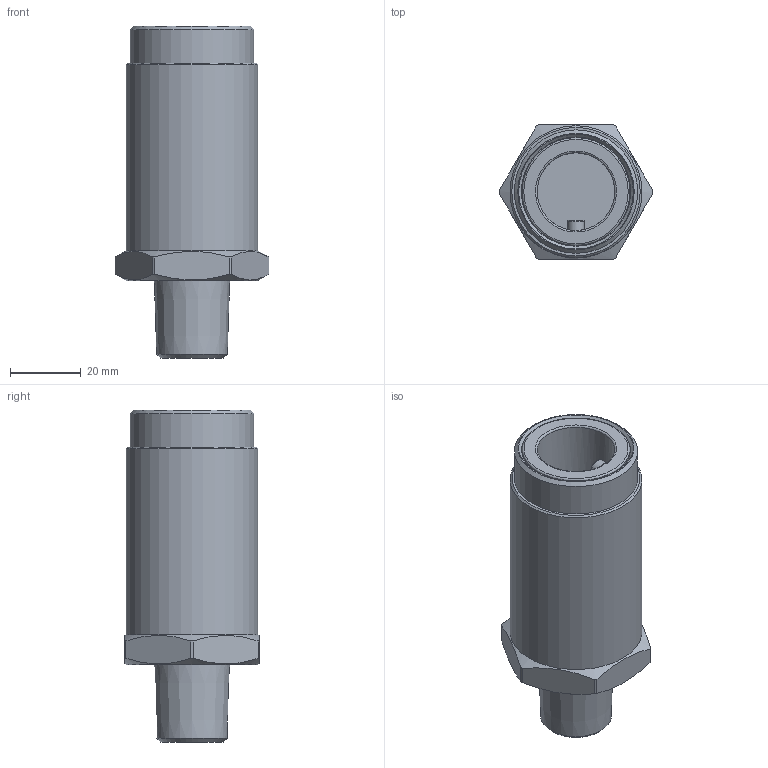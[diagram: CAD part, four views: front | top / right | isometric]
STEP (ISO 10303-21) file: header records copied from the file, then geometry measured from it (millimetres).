
FILE_DESCRIPTION(/* description */ ('PART (MM)'),/* implementation_level */ '2;1');
FILE_NAME(/* name */ 'L:\CAD Inventor\Workspace\Catalogs\CATALOG-TURCK CONNECTORS\PWR-GSDFV-EX-14_5NPT.stp',/* time_stamp */ '2021-06-17T11:00:43-05:00',/* author */ ('RSwans'),/* organization */ (''),/* preprocessor_version */ 'ST-DEVELOPER v16.5',/* originating_system */ 'Autodesk Inventor 2017',/* authorisation */ '');
FILE_SCHEMA (('AUTOMOTIVE_DESIGN { 1 0 10303 214 3 1 1 }'));
Length unit declared in the file: millimetre
Products named in the file (1): Part13
Bounding box: 43.65 x 38.1 x 94.15 mm (x, y, z)
Volume: 59858.2 mm3; surface area: 25594.1 mm2
Topology: 1 solids, 4 shells, 185 faces, 495 edges, 320 vertices
Faces by surface type: plane 63, cylinder 49, cone 48, bspline 20, torus 5
Full cylindrical faces by diameter (mm): 15.5 x1, 24 x2, 24.9 x1, 26.4 x11, 26.5 x1, 28 x1, 30.6 x1, 31 x1, 35 x1, 37.4 x1
Entity records: 5832 total; most frequent: CARTESIAN_POINT 1407, DIRECTION 901, ORIENTED_EDGE 822, EDGE_CURVE 411, AXIS2_PLACEMENT_3D 382, VERTEX_POINT 292, EDGE_LOOP 255, CIRCLE 186
